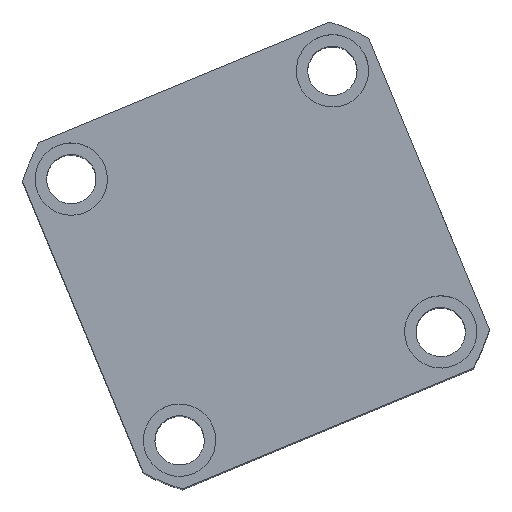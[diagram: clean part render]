
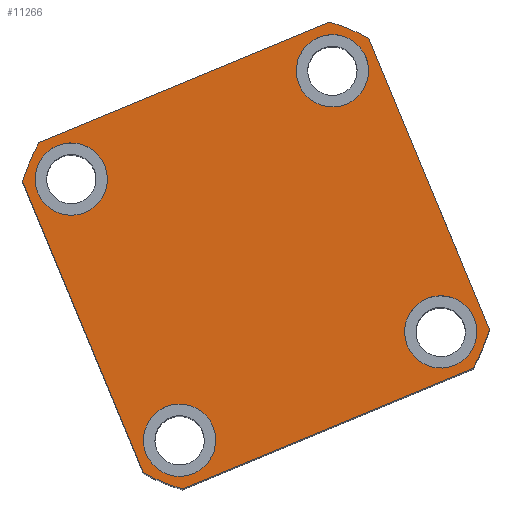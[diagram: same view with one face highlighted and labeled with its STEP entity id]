
A CAD part, top view. The second image highlights one B-rep face of the part: STEP entity #11266.
In plain terms, the highlighted planar face has unit normal (0, 0, 1) as drawn and (0, 0, -1) by its records, which use the part's own axes.
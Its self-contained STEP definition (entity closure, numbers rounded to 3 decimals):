
#110 = CARTESIAN_POINT ( 'NONE',  ( 57., -47.971, 0. ) ) ;
#196 = CARTESIAN_POINT ( 'NONE',  ( -43., 43., 0. ) ) ;
#241 = CARTESIAN_POINT ( 'NONE',  ( 0., 0., 0. ) ) ;
#247 = AXIS2_PLACEMENT_3D ( 'NONE', #6014, #20392, #11002 ) ;
#347 = VERTEX_POINT ( 'NONE', #16305 ) ;
#871 = ORIENTED_EDGE ( 'NONE', *, *, #20331, .F. ) ;
#918 = DIRECTION ( 'NONE',  ( -1., 0., 0. ) ) ;
#923 = CARTESIAN_POINT ( 'NONE',  ( 0., 0., 0. ) ) ;
#945 = CIRCLE ( 'NONE', #8981, 74.5 ) ;
#1323 = EDGE_CURVE ( 'NONE', #4771, #6769, #12103, .T. ) ;
#1332 = DIRECTION ( 'NONE',  ( 0., 1., 0. ) ) ;
#1408 = CARTESIAN_POINT ( 'NONE',  ( 57., 57., 0. ) ) ;
#1490 = CARTESIAN_POINT ( 'NONE',  ( 47.971, 57., 0. ) ) ;
#1517 = CIRCLE ( 'NONE', #14296, 11. ) ;
#1628 = CARTESIAN_POINT ( 'NONE',  ( -47.971, 57., 0. ) ) ;
#1811 = DIRECTION ( 'NONE',  ( -1., 0., 0. ) ) ;
#2096 = DIRECTION ( 'NONE',  ( 0., 0., 1. ) ) ;
#2346 = AXIS2_PLACEMENT_3D ( 'NONE', #2427, #13485, #4024 ) ;
#2427 = CARTESIAN_POINT ( 'NONE',  ( 43., 43., 0. ) ) ;
#2431 = VECTOR ( 'NONE', #15126, 1000. ) ;
#2500 = DIRECTION ( 'NONE',  ( 1., 0., 0. ) ) ;
#2692 = EDGE_CURVE ( 'NONE', #17277, #4771, #7900, .T. ) ;
#2713 = VERTEX_POINT ( 'NONE', #20272 ) ;
#2735 = AXIS2_PLACEMENT_3D ( 'NONE', #19789, #10374, #918 ) ;
#2921 = ORIENTED_EDGE ( 'NONE', *, *, #4154, .F. ) ;
#3110 = ORIENTED_EDGE ( 'NONE', *, *, #6386, .F. ) ;
#3166 = VECTOR ( 'NONE', #11026, 1000. ) ;
#3292 = FACE_OUTER_BOUND ( 'NONE', #9960, .T. ) ;
#3308 = CIRCLE ( 'NONE', #2346, 11. ) ;
#3495 = EDGE_CURVE ( 'NONE', #17011, #17277, #6628, .T. ) ;
#3562 = ORIENTED_EDGE ( 'NONE', *, *, #14581, .F. ) ;
#3602 = CARTESIAN_POINT ( 'NONE',  ( 43., -43., 0. ) ) ;
#3727 = VERTEX_POINT ( 'NONE', #14863 ) ;
#3896 = CARTESIAN_POINT ( 'NONE',  ( 43., 43., 0. ) ) ;
#3911 = CIRCLE ( 'NONE', #2735, 11. ) ;
#4024 = DIRECTION ( 'NONE',  ( -1., 0., 0. ) ) ;
#4091 = DIRECTION ( 'NONE',  ( 0., 0., -1. ) ) ;
#4154 = EDGE_CURVE ( 'NONE', #7320, #4288, #11562, .T. ) ;
#4160 = DIRECTION ( 'NONE',  ( 0., 0., 1. ) ) ;
#4262 = EDGE_LOOP ( 'NONE', ( #10000, #3110 ) ) ;
#4288 = VERTEX_POINT ( 'NONE', #8450 ) ;
#4771 = VERTEX_POINT ( 'NONE', #110 ) ;
#4953 = CIRCLE ( 'NONE', #10334, 11. ) ;
#5177 = DIRECTION ( 'NONE',  ( -1., 0., 0. ) ) ;
#5324 = EDGE_CURVE ( 'NONE', #2713, #347, #13597, .T. ) ;
#5481 = DIRECTION ( 'NONE',  ( -1., 0., 0. ) ) ;
#5931 = EDGE_CURVE ( 'NONE', #4288, #17011, #17013, .T. ) ;
#6014 = CARTESIAN_POINT ( 'NONE',  ( 0., 0., 0. ) ) ;
#6015 = CARTESIAN_POINT ( 'NONE',  ( -43., 43., 0. ) ) ;
#6040 = ORIENTED_EDGE ( 'NONE', *, *, #8397, .F. ) ;
#6210 = PLANE ( 'NONE',  #247 ) ;
#6212 = CARTESIAN_POINT ( 'NONE',  ( -32., -43., 0. ) ) ;
#6265 = AXIS2_PLACEMENT_3D ( 'NONE', #3602, #14647, #5177 ) ;
#6386 = EDGE_CURVE ( 'NONE', #20070, #3727, #14077, .T. ) ;
#6628 = LINE ( 'NONE', #15359, #2431 ) ;
#6769 = VERTEX_POINT ( 'NONE', #15166 ) ;
#6949 = VERTEX_POINT ( 'NONE', #13170 ) ;
#7072 = DIRECTION ( 'NONE',  ( 0., 0., -1. ) ) ;
#7190 = CARTESIAN_POINT ( 'NONE',  ( 32., 43., 0. ) ) ;
#7320 = VERTEX_POINT ( 'NONE', #10415 ) ;
#7502 = FACE_BOUND ( 'NONE', #9781, .T. ) ;
#7565 = ORIENTED_EDGE ( 'NONE', *, *, #5931, .F. ) ;
#7609 = DIRECTION ( 'NONE',  ( -1., 0., 0. ) ) ;
#7900 = CIRCLE ( 'NONE', #9708, 74.5 ) ;
#8397 = EDGE_CURVE ( 'NONE', #14912, #20311, #3911, .T. ) ;
#8443 = VERTEX_POINT ( 'NONE', #7190 ) ;
#8450 = CARTESIAN_POINT ( 'NONE',  ( -57., -47.971, 0. ) ) ;
#8453 = ORIENTED_EDGE ( 'NONE', *, *, #8793, .F. ) ;
#8793 = EDGE_CURVE ( 'NONE', #6769, #15775, #945, .T. ) ;
#8981 = AXIS2_PLACEMENT_3D ( 'NONE', #11548, #2096, #13147 ) ;
#9391 = CARTESIAN_POINT ( 'NONE',  ( -57., 57., 0. ) ) ;
#9708 = AXIS2_PLACEMENT_3D ( 'NONE', #241, #9875, #20467 ) ;
#9781 = EDGE_LOOP ( 'NONE', ( #15591, #18266 ) ) ;
#9875 = DIRECTION ( 'NONE',  ( 0., 0., 1. ) ) ;
#9960 = EDGE_LOOP ( 'NONE', ( #8453, #19584, #19225, #16385, #7565, #2921, #871, #16088 ) ) ;
#10000 = ORIENTED_EDGE ( 'NONE', *, *, #14851, .F. ) ;
#10314 = CARTESIAN_POINT ( 'NONE',  ( -57., 57., 0. ) ) ;
#10334 = AXIS2_PLACEMENT_3D ( 'NONE', #13548, #4091, #15121 ) ;
#10374 = DIRECTION ( 'NONE',  ( 0., 0., -1. ) ) ;
#10415 = CARTESIAN_POINT ( 'NONE',  ( -57., 47.971, 0. ) ) ;
#11002 = DIRECTION ( 'NONE',  ( 1., 0., 0. ) ) ;
#11026 = DIRECTION ( 'NONE',  ( 0., -1., 0. ) ) ;
#11266 = ADVANCED_FACE ( 'NONE', ( #15889, #7502, #20059, #11699, #3292 ), #6210, .F. ) ;
#11281 = DIRECTION ( 'NONE',  ( 0., 0., -1. ) ) ;
#11465 = AXIS2_PLACEMENT_3D ( 'NONE', #923, #11964, #2500 ) ;
#11548 = CARTESIAN_POINT ( 'NONE',  ( 0., 0., 0. ) ) ;
#11562 = LINE ( 'NONE', #10314, #3166 ) ;
#11616 = CARTESIAN_POINT ( 'NONE',  ( -32., 43., 0. ) ) ;
#11699 = FACE_BOUND ( 'NONE', #4262, .T. ) ;
#11834 = ORIENTED_EDGE ( 'NONE', *, *, #20274, .F. ) ;
#11880 = AXIS2_PLACEMENT_3D ( 'NONE', #6015, #17036, #7609 ) ;
#11964 = DIRECTION ( 'NONE',  ( 0., 0., 1. ) ) ;
#12103 = LINE ( 'NONE', #1408, #12595 ) ;
#12455 = AXIS2_PLACEMENT_3D ( 'NONE', #13619, #4160, #15185 ) ;
#12595 = VECTOR ( 'NONE', #1332, 1000. ) ;
#12942 = VECTOR ( 'NONE', #18828, 1000. ) ;
#12961 = EDGE_CURVE ( 'NONE', #6949, #8443, #17593, .T. ) ;
#13147 = DIRECTION ( 'NONE',  ( 1., 0., 0. ) ) ;
#13170 = CARTESIAN_POINT ( 'NONE',  ( 54., 43., 0. ) ) ;
#13485 = DIRECTION ( 'NONE',  ( 0., 0., -1. ) ) ;
#13548 = CARTESIAN_POINT ( 'NONE',  ( -43., -43., 0. ) ) ;
#13596 = CARTESIAN_POINT ( 'NONE',  ( -47.971, -57., 0. ) ) ;
#13597 = CIRCLE ( 'NONE', #6265, 11. ) ;
#13619 = CARTESIAN_POINT ( 'NONE',  ( 0., 0., 0. ) ) ;
#14077 = CIRCLE ( 'NONE', #14239, 11. ) ;
#14239 = AXIS2_PLACEMENT_3D ( 'NONE', #196, #11281, #1811 ) ;
#14296 = AXIS2_PLACEMENT_3D ( 'NONE', #16510, #7072, #18100 ) ;
#14426 = CIRCLE ( 'NONE', #11880, 11. ) ;
#14581 = EDGE_CURVE ( 'NONE', #8443, #6949, #3308, .T. ) ;
#14647 = DIRECTION ( 'NONE',  ( 0., 0., -1. ) ) ;
#14851 = EDGE_CURVE ( 'NONE', #3727, #20070, #14426, .T. ) ;
#14863 = CARTESIAN_POINT ( 'NONE',  ( -54., 43., 0. ) ) ;
#14912 = VERTEX_POINT ( 'NONE', #6212 ) ;
#14940 = DIRECTION ( 'NONE',  ( 0., 0., -1. ) ) ;
#14971 = EDGE_CURVE ( 'NONE', #15775, #19825, #17617, .T. ) ;
#15121 = DIRECTION ( 'NONE',  ( -1., 0., 0. ) ) ;
#15126 = DIRECTION ( 'NONE',  ( 1., 0., 0. ) ) ;
#15166 = CARTESIAN_POINT ( 'NONE',  ( 57., 47.971, 0. ) ) ;
#15185 = DIRECTION ( 'NONE',  ( 1., 0., 0. ) ) ;
#15359 = CARTESIAN_POINT ( 'NONE',  ( -57., -57., 0. ) ) ;
#15499 = CARTESIAN_POINT ( 'NONE',  ( 47.971, -57., 0. ) ) ;
#15591 = ORIENTED_EDGE ( 'NONE', *, *, #19480, .F. ) ;
#15775 = VERTEX_POINT ( 'NONE', #1490 ) ;
#15889 = FACE_BOUND ( 'NONE', #16836, .T. ) ;
#16015 = AXIS2_PLACEMENT_3D ( 'NONE', #3896, #14940, #5481 ) ;
#16088 = ORIENTED_EDGE ( 'NONE', *, *, #14971, .F. ) ;
#16305 = CARTESIAN_POINT ( 'NONE',  ( 32., -43., 0. ) ) ;
#16385 = ORIENTED_EDGE ( 'NONE', *, *, #3495, .F. ) ;
#16510 = CARTESIAN_POINT ( 'NONE',  ( 43., -43., 0. ) ) ;
#16538 = CIRCLE ( 'NONE', #12455, 74.5 ) ;
#16836 = EDGE_LOOP ( 'NONE', ( #11834, #6040 ) ) ;
#17011 = VERTEX_POINT ( 'NONE', #13596 ) ;
#17013 = CIRCLE ( 'NONE', #11465, 74.5 ) ;
#17036 = DIRECTION ( 'NONE',  ( 0., 0., -1. ) ) ;
#17113 = EDGE_LOOP ( 'NONE', ( #3562, #18422 ) ) ;
#17277 = VERTEX_POINT ( 'NONE', #15499 ) ;
#17593 = CIRCLE ( 'NONE', #16015, 11. ) ;
#17617 = LINE ( 'NONE', #9391, #12942 ) ;
#18100 = DIRECTION ( 'NONE',  ( -1., 0., 0. ) ) ;
#18217 = CARTESIAN_POINT ( 'NONE',  ( -54., -43., 0. ) ) ;
#18266 = ORIENTED_EDGE ( 'NONE', *, *, #5324, .F. ) ;
#18422 = ORIENTED_EDGE ( 'NONE', *, *, #12961, .F. ) ;
#18828 = DIRECTION ( 'NONE',  ( -1., 0., 0. ) ) ;
#19225 = ORIENTED_EDGE ( 'NONE', *, *, #2692, .F. ) ;
#19480 = EDGE_CURVE ( 'NONE', #347, #2713, #1517, .T. ) ;
#19584 = ORIENTED_EDGE ( 'NONE', *, *, #1323, .F. ) ;
#19789 = CARTESIAN_POINT ( 'NONE',  ( -43., -43., 0. ) ) ;
#19825 = VERTEX_POINT ( 'NONE', #1628 ) ;
#20059 = FACE_BOUND ( 'NONE', #17113, .T. ) ;
#20070 = VERTEX_POINT ( 'NONE', #11616 ) ;
#20272 = CARTESIAN_POINT ( 'NONE',  ( 54., -43., 0. ) ) ;
#20274 = EDGE_CURVE ( 'NONE', #20311, #14912, #4953, .T. ) ;
#20311 = VERTEX_POINT ( 'NONE', #18217 ) ;
#20331 = EDGE_CURVE ( 'NONE', #19825, #7320, #16538, .T. ) ;
#20392 = DIRECTION ( 'NONE',  ( 0., 0., 1. ) ) ;
#20467 = DIRECTION ( 'NONE',  ( 1., 0., 0. ) ) ;
